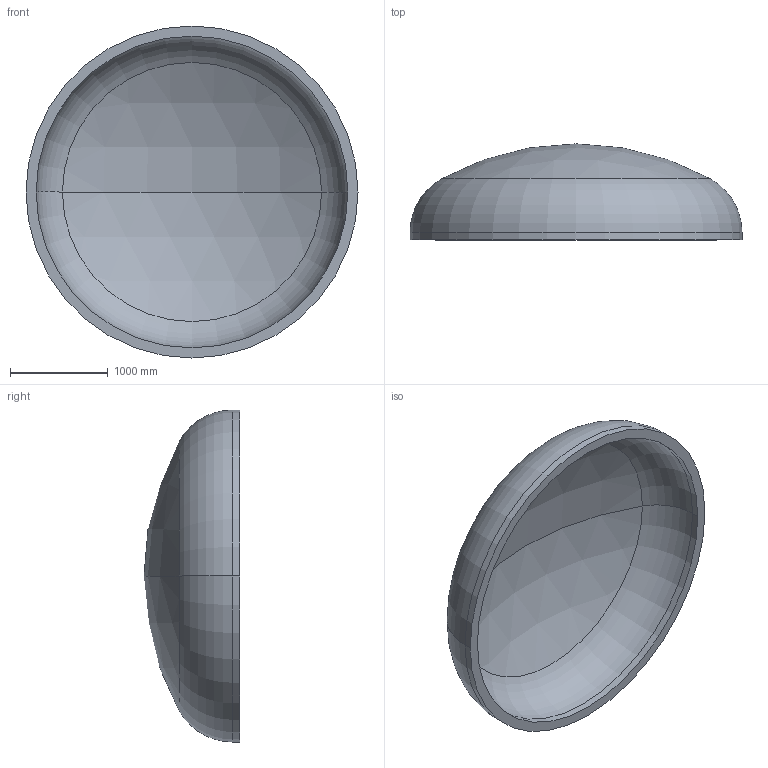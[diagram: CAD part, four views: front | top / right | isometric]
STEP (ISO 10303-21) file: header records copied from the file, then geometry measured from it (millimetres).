
FILE_DESCRIPTION (( 'STEP AP203' ), '1' );
FILE_NAME ('DIN 28013 Korbbogenform_-_Boden DIN 28013 - 3400 x 75 - I - s=104.step', '2016-07-01T19:53:49', ( '' ), ( '' ), 'SwSTEP 2.0', 'SolidWorks 2013', '' );
FILE_SCHEMA (( 'CONFIG_CONTROL_DESIGN' ));
Length unit declared in the file: millimetre
Products named in the file (1): DIN 28013 Korbbogenform_-_Boden DIN 28013 - 3400 x 75 - I - s=104
Bounding box: 3400 x 983.02 x 3400 mm (x, y, z)
Volume: 1337992218.1 mm3; surface area: 26830151.6 mm2
Topology: 1 solids, 1 shells, 13 faces, 24 edges, 14 vertices
Faces by surface type: torus 4, cylinder 4, sphere 4, plane 1
Entity records: 407 total; most frequent: DIRECTION 72, CARTESIAN_POINT 52, ORIENTED_EDGE 48, AXIS2_PLACEMENT_3D 34, EDGE_CURVE 24, CIRCLE 20, EDGE_LOOP 14, VERTEX_POINT 14
